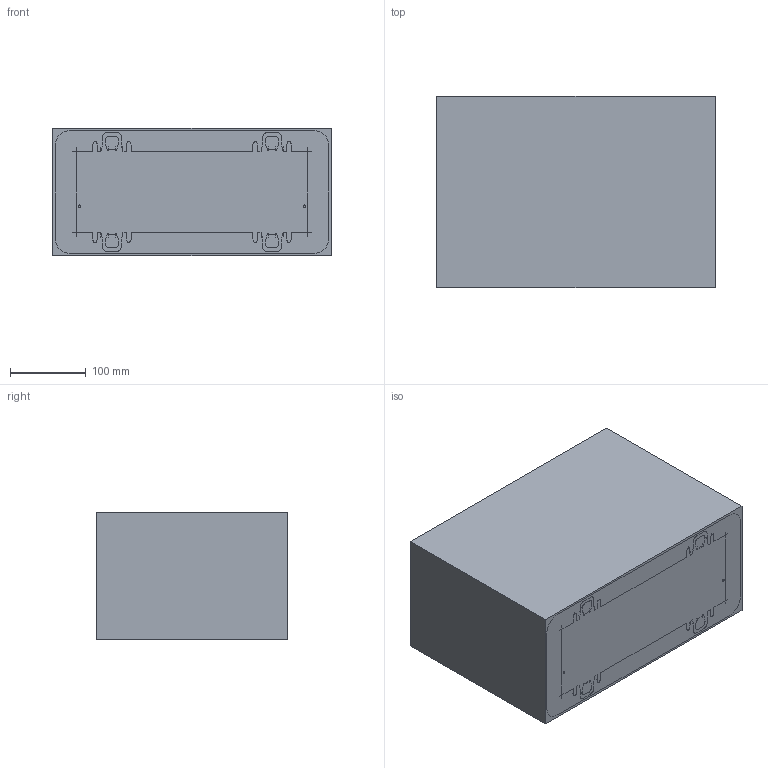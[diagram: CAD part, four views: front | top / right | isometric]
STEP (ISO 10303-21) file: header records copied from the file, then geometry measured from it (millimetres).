
FILE_DESCRIPTION (( 'STEP AP203' ), '1' );
FILE_NAME ('1430-CASE-BOT.STEP', '2006-01-25T18:19:02', ( ' ' ), ( ' ' ), 'SwSTEP 2.0', 'SolidWorks 2005143', '' );
FILE_SCHEMA (( 'CONFIG_CONTROL_DESIGN' ));
Length unit declared in the file: inch
Products named in the file (1): 1430-CASE-BOT
Bounding box: 366.27 x 251.71 x 168.15 mm (x, y, z)
Volume: 2719307.8 mm3; surface area: 855923.7 mm2
Topology: 8 solids, 8 shells, 447 faces, 1135 edges, 699 vertices
Faces by surface type: cylinder 142, plane 141, bspline 84, torus 44, sphere 18, cone 18
Entity records: 58211 total; most frequent: CARTESIAN_POINT 48327, ORIENTED_EDGE 2242, DIRECTION 1797, EDGE_CURVE 1121, VERTEX_POINT 699, AXIS2_PLACEMENT_3D 658, LINE 481, VECTOR 481
